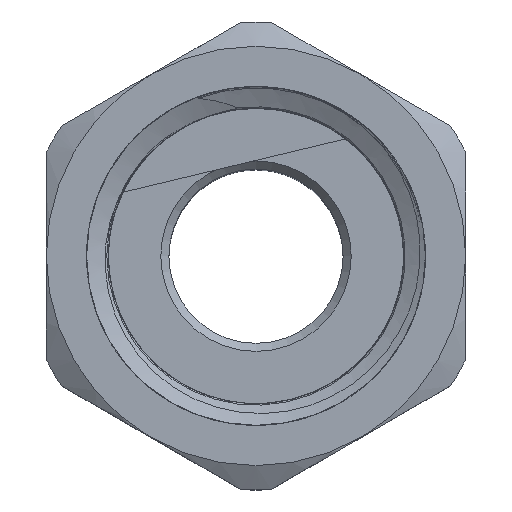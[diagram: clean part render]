
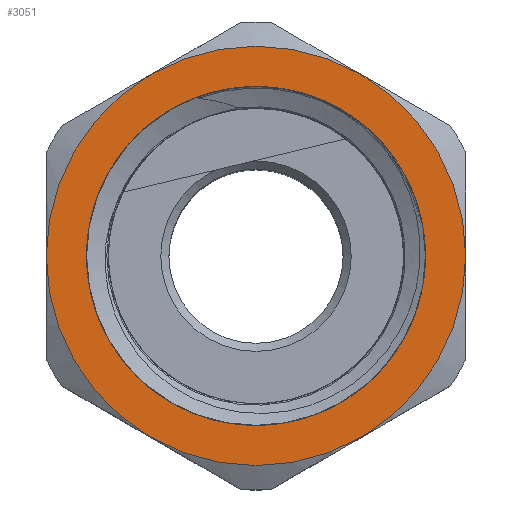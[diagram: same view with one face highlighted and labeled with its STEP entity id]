
A CAD part, top view. The second image highlights one B-rep face of the part: STEP entity #3051.
In plain terms, the highlighted planar face has unit normal (0, 0, 1) as drawn and (0, 0, -1) by its records, which use the part's own axes.
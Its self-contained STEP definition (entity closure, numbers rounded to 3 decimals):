
#271=FACE_BOUND('',#712,.T.);
#331=PLANE('',#3358);
#520=FACE_OUTER_BOUND('',#711,.T.);
#711=EDGE_LOOP('',(#2801,#2802));
#712=EDGE_LOOP('',(#2803,#2804));
#1166=CIRCLE('',#3308,12.997);
#1167=CIRCLE('',#3309,12.997);
#1194=CIRCLE('',#3356,10.5);
#1195=CIRCLE('',#3357,10.5);
#1457=VERTEX_POINT('',#6372);
#1458=VERTEX_POINT('',#6374);
#1488=VERTEX_POINT('',#6485);
#1489=VERTEX_POINT('',#6487);
#1881=EDGE_CURVE('',#1458,#1457,#1166,.T.);
#1882=EDGE_CURVE('',#1457,#1458,#1167,.T.);
#1931=EDGE_CURVE('',#1489,#1488,#1194,.T.);
#1932=EDGE_CURVE('',#1488,#1489,#1195,.T.);
#2801=ORIENTED_EDGE('',*,*,#1881,.T.);
#2802=ORIENTED_EDGE('',*,*,#1882,.T.);
#2803=ORIENTED_EDGE('',*,*,#1931,.T.);
#2804=ORIENTED_EDGE('',*,*,#1932,.T.);
#3051=ADVANCED_FACE('',(#520,#271),#331,.T.);
#3308=AXIS2_PLACEMENT_3D('',#6375,#3894,#3895);
#3309=AXIS2_PLACEMENT_3D('',#6376,#3896,#3897);
#3356=AXIS2_PLACEMENT_3D('',#6488,#4006,#4007);
#3357=AXIS2_PLACEMENT_3D('',#6489,#4008,#4009);
#3358=AXIS2_PLACEMENT_3D('',#6490,#4010,#4011);
#3894=DIRECTION('center_axis',(0.,0.,-1.));
#3895=DIRECTION('ref_axis',(0.,1.,0.));
#3896=DIRECTION('center_axis',(0.,0.,-1.));
#3897=DIRECTION('ref_axis',(0.,1.,0.));
#4006=DIRECTION('center_axis',(0.,0.,1.));
#4007=DIRECTION('ref_axis',(1.,0.,0.));
#4008=DIRECTION('center_axis',(0.,0.,1.));
#4009=DIRECTION('ref_axis',(1.,0.,0.));
#4010=DIRECTION('center_axis',(0.,0.,-1.));
#4011=DIRECTION('ref_axis',(-1.,0.,0.));
#6372=CARTESIAN_POINT('',(0.,-12.997,-0.025));
#6374=CARTESIAN_POINT('',(0.,12.997,-0.025));
#6375=CARTESIAN_POINT('Origin',(0.,0.,-0.025));
#6376=CARTESIAN_POINT('Origin',(0.,0.,-0.025));
#6485=CARTESIAN_POINT('',(0.,10.5,-0.025));
#6487=CARTESIAN_POINT('',(0.,-10.5,-0.025));
#6488=CARTESIAN_POINT('Origin',(0.,0.,-0.025));
#6489=CARTESIAN_POINT('Origin',(0.,0.,-0.025));
#6490=CARTESIAN_POINT('Origin',(0.,-12.997,-0.025));
